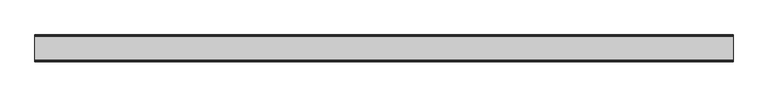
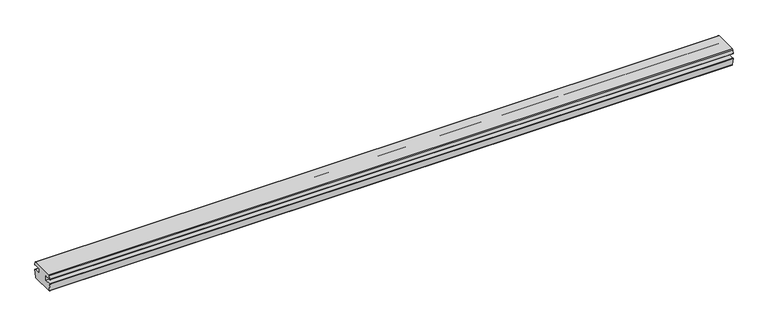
"""IFC4 building model written with IfcOpenShell, lengths in millimetres: proxy geometry, Weiku - Montante - Divisor fixo 02.2.01.041 : Weiku - Montante - Divisor fixo 02.2.01.041."""

from ifc_helpers import new_model, si_unit, point, frame, frame_2d, origin, place, context, project, spatial, polyline, circle_curve, trimmed, segment, composite_curve, outline, extrude, source, transform, mapped, element, save


def generic_models_c8111a89(model_context):
    return source(origin(), model_context, "Body", "SweptSolid", [
        extrude(outline(composite_curve([segment(polyline([(-33.0007245, 50.0), (33.0007245, 50.0)]), True, "CONTINUOUS"), segment(trimmed(circle_curve(frame_2d((33.0007245, 47.0)), 3.0), [point((33.0007245, 50.0))], [point((35.898502, 47.7764571))], False, "CARTESIAN"), True, "CONTINUOUS"), segment(polyline([(35.898502, 47.7764571), (38.4496907, 38.2552914)]), True, "CONTINUOUS"), segment(trimmed(circle_curve(frame_2d((37.8701352, 38.1)), 0.6), [point((38.4496907, 38.2552914))], [point((37.8701352, 37.5))], False, "CARTESIAN"), True, "CONTINUOUS"), segment(polyline([(37.8701352, 37.5), (17.5004577, 37.5), (17.5004577, 23.5), (37.5139562, 23.5)]), True, "CONTINUOUS"), segment(trimmed(circle_curve(frame_2d((37.5139562, 22.5)), 1.0), [point((37.5139562, 23.5))], [point((38.5006041, 22.3371317))], False, "CARTESIAN"), True, "CONTINUOUS"), segment(polyline([(38.5006041, 22.3371317), (34.9515483, 0.8371317)]), True, "CONTINUOUS"), segment(trimmed(circle_curve(frame_2d((33.9649005, 1.0)), 1.0), [point((34.9515483, 0.8371317))], [point((33.9649005, 0.0))], False, "CARTESIAN"), True, "CONTINUOUS"), segment(polyline([(33.9649005, 0.0), (-33.9649005, 0.0)]), True, "CONTINUOUS"), segment(trimmed(circle_curve(frame_2d((-33.9649005, 1.0)), 1.0), [point((-33.9649005, 0.0))], [point((-34.9515483, 0.8371317))], False, "CARTESIAN"), True, "CONTINUOUS"), segment(polyline([(-34.9515483, 0.8371317), (-38.5006041, 22.3371317)]), True, "CONTINUOUS"), segment(trimmed(circle_curve(frame_2d((-37.5139562, 22.5)), 1.0), [point((-38.5006041, 22.3371317))], [point((-37.5139562, 23.5))], False, "CARTESIAN"), True, "CONTINUOUS"), segment(polyline([(-37.5139562, 23.5), (-17.5004577, 23.5), (-17.5004577, 37.5), (-37.8701352, 37.5)]), True, "CONTINUOUS"), segment(trimmed(circle_curve(frame_2d((-37.8701352, 38.1)), 0.6), [point((-37.8701352, 37.5))], [point((-38.4496907, 38.2552914))], False, "CARTESIAN"), True, "CONTINUOUS"), segment(polyline([(-38.4496907, 38.2552914), (-35.898502, 47.7764571)]), True, "CONTINUOUS"), segment(trimmed(circle_curve(frame_2d((-33.0007245, 47.0)), 3.0), [point((-35.898502, 47.7764571))], [point((-33.0007245, 50.0))], False, "CARTESIAN"), True, "CONTINUOUS")], self_intersect=False)), frame((-1006.5, 0.0, 0.0), z_axis=(1.0, 0.0, 0.0), x_axis=(0.0, 1.0, 0.0)), (0.0, 0.0, 1.0), 2013.0),
    ])


if __name__ == "__main__":
    model = new_model("IFC4")
    model_context = context("Model", 3, world=origin())
    ifc_project = project(units=[si_unit("LENGTHUNIT", "METRE", prefix="MILLI")], contexts=[model_context])
    site = spatial("IfcSite", under=ifc_project)
    building = spatial("IfcBuilding", under=site)
    placement = place(None, origin())
    generic_models_shape = generic_models_c8111a89(model_context)
    element("IfcBuildingElementProxy", 1, Name="Weiku - Montante - Divisor fixo 02.2.01.041 : Weiku - Montante - Divisor fixo 02.2.01.041", ObjectType="Weiku - Montante - Divisor fixo 02.2.01.041 : Weiku - Montante - Divisor fixo 02.2.01.041", at=placement, inside=building, context=model_context, shape_type="MappedRepresentation", body=[
        mapped(generic_models_shape, transform((0.0, 0.0, 0.0), x_axis=(1.0, 0.0, 0.0), y_axis=(0.0, 1.0, 0.0), z_axis=(0.0, 0.0, 1.0))),
    ])
    save(model, "model.ifc")
